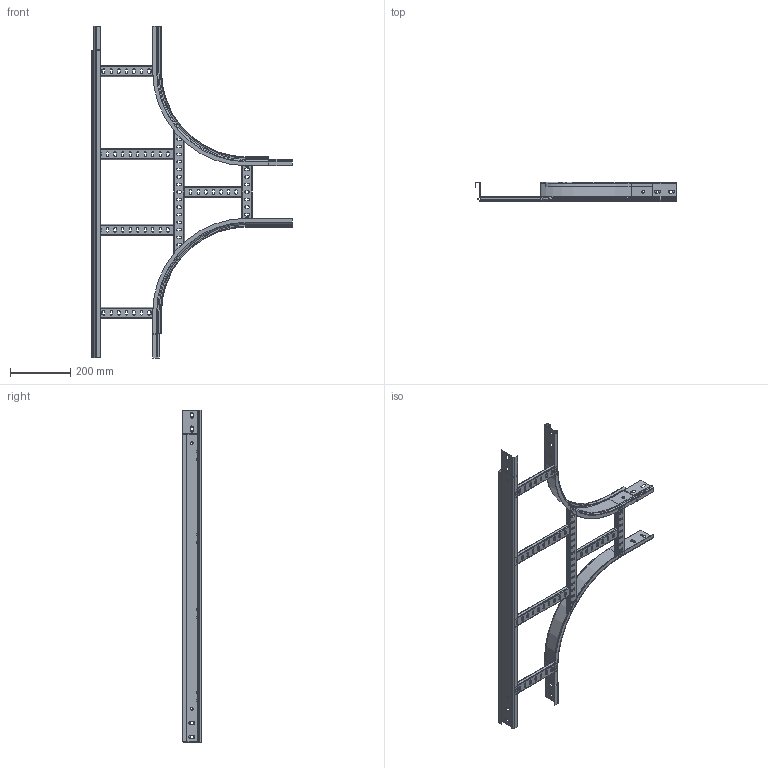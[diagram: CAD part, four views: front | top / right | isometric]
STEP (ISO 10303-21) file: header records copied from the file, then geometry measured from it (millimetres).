
FILE_DESCRIPTION (( 'STEP AP214' ), '1' );
FILE_NAME ('TEFER-300 200x60.STEP', '2023-06-28T13:35:28', ( '' ), ( '' ), 'SwSTEP 2.0', 'SolidWorks 2022', '' );
FILE_SCHEMA (( 'AUTOMOTIVE_DESIGN' ));
Length unit declared in the file: millimetre
Products named in the file (7): RAT35_TE_especial 1_200; Travesaño RAT35 FER GS_200; FER_INTERIOR CP_Circular_Enchufable_60; RAT35_TE_especial 3_ZZZZ x YYYY; TEFER-300 200x60; FER_RECTO_TE_GS_200; RAT35_TE_especial 2_200
Assembly tree (10 placements, depth 2):
  TEFER-300 200x60
    FER_INTERIOR CP_Circular_Enchufable_60  x2
    FER_RECTO_TE_GS_200
    Travesaño RAT35 FER GS_200  x3
    RAT35_TE_especial 1_200
    RAT35_TE_especial 2_200  x2
    RAT35_TE_especial 3_ZZZZ x YYYY
Bounding box: 665.4 x 64.2 x 1100 mm (x, y, z)
Volume: 169783.2 mm3; surface area: 795856 mm2
Topology: 7 solids, 15 shells, 956 faces, 2414 edges, 1495 vertices
Faces by surface type: plane 529, cylinder 325, torus 72, cone 18, bspline 12
Entity records: 17728 total; most frequent: CARTESIAN_POINT 3599, DIRECTION 2944, ORIENTED_EDGE 2802, EDGE_CURVE 1425, AXIS2_PLACEMENT_3D 1002, VECTOR 940, LINE 940, VERTEX_POINT 890
